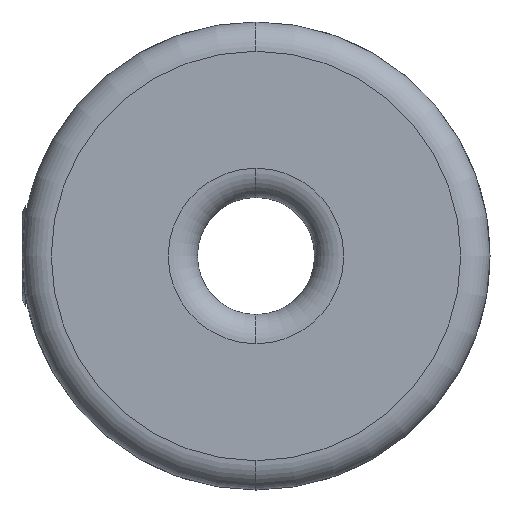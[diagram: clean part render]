
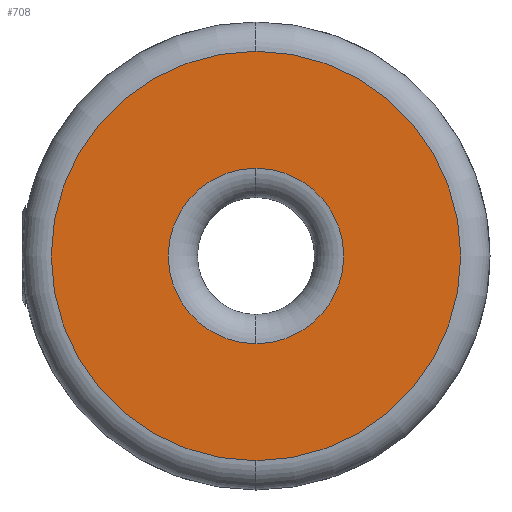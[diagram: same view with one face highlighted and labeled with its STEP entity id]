
A CAD part, left-side view. The second image highlights one B-rep face of the part: STEP entity #708.
In plain terms, the highlighted planar face has unit normal (-1, 0, 0).
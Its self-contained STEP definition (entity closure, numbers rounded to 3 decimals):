
#26 = EDGE_CURVE ( 'NONE', #1273, #2221, #1430, .T. ) ;
#31 = FACE_OUTER_BOUND ( 'NONE', #468, .T. ) ;
#337 = EDGE_CURVE ( 'NONE', #541, #1385, #737, .T. ) ;
#365 = CIRCLE ( 'NONE', #899, 3.5 ) ;
#468 = EDGE_LOOP ( 'NONE', ( #2286, #611 ) ) ;
#496 = AXIS2_PLACEMENT_3D ( 'NONE', #1689, #1098, #2085 ) ;
#522 = EDGE_CURVE ( 'NONE', #1385, #541, #2202, .T. ) ;
#527 = DIRECTION ( 'NONE',  ( 0., 0., -1. ) ) ;
#541 = VERTEX_POINT ( 'NONE', #1783 ) ;
#544 = PLANE ( 'NONE',  #786 ) ;
#579 = CARTESIAN_POINT ( 'NONE',  ( -5., 0., 0. ) ) ;
#611 = ORIENTED_EDGE ( 'NONE', *, *, #26, .T. ) ;
#677 = DIRECTION ( 'NONE',  ( 1., 0., 0. ) ) ;
#694 = FACE_BOUND ( 'NONE', #1834, .T. ) ;
#708 = ADVANCED_FACE ( 'NONE', ( #694, #31 ), #544, .F. ) ;
#737 = CIRCLE ( 'NONE', #2187, 1.5 ) ;
#748 = ORIENTED_EDGE ( 'NONE', *, *, #522, .T. ) ;
#786 = AXIS2_PLACEMENT_3D ( 'NONE', #579, #677, #527 ) ;
#810 = CARTESIAN_POINT ( 'NONE',  ( -5., 0., 0. ) ) ;
#899 = AXIS2_PLACEMENT_3D ( 'NONE', #810, #1370, #1301 ) ;
#984 = CARTESIAN_POINT ( 'NONE',  ( -5., 0., -3.5 ) ) ;
#985 = CARTESIAN_POINT ( 'NONE',  ( -5., 0., 1.5 ) ) ;
#1098 = DIRECTION ( 'NONE',  ( -1., 0., 0. ) ) ;
#1268 = CARTESIAN_POINT ( 'NONE',  ( -5., 0., 3.5 ) ) ;
#1273 = VERTEX_POINT ( 'NONE', #1268 ) ;
#1301 = DIRECTION ( 'NONE',  ( 0., 0., -1. ) ) ;
#1370 = DIRECTION ( 'NONE',  ( -1., 0., 0. ) ) ;
#1385 = VERTEX_POINT ( 'NONE', #985 ) ;
#1430 = CIRCLE ( 'NONE', #496, 3.5 ) ;
#1496 = AXIS2_PLACEMENT_3D ( 'NONE', #1991, #1979, #1974 ) ;
#1689 = CARTESIAN_POINT ( 'NONE',  ( -5., 0., 0. ) ) ;
#1783 = CARTESIAN_POINT ( 'NONE',  ( -5., 0., -1.5 ) ) ;
#1834 = EDGE_LOOP ( 'NONE', ( #2421, #748 ) ) ;
#1893 = DIRECTION ( 'NONE',  ( 1., 0., 0. ) ) ;
#1911 = DIRECTION ( 'NONE',  ( 0., 0., -1. ) ) ;
#1932 = CARTESIAN_POINT ( 'NONE',  ( -5., 0., 0. ) ) ;
#1974 = DIRECTION ( 'NONE',  ( 0., 0., -1. ) ) ;
#1979 = DIRECTION ( 'NONE',  ( 1., 0., 0. ) ) ;
#1991 = CARTESIAN_POINT ( 'NONE',  ( -5., 0., 0. ) ) ;
#2085 = DIRECTION ( 'NONE',  ( 0., 0., -1. ) ) ;
#2174 = EDGE_CURVE ( 'NONE', #2221, #1273, #365, .T. ) ;
#2187 = AXIS2_PLACEMENT_3D ( 'NONE', #1932, #1893, #1911 ) ;
#2202 = CIRCLE ( 'NONE', #1496, 1.5 ) ;
#2221 = VERTEX_POINT ( 'NONE', #984 ) ;
#2286 = ORIENTED_EDGE ( 'NONE', *, *, #2174, .T. ) ;
#2421 = ORIENTED_EDGE ( 'NONE', *, *, #337, .T. ) ;
